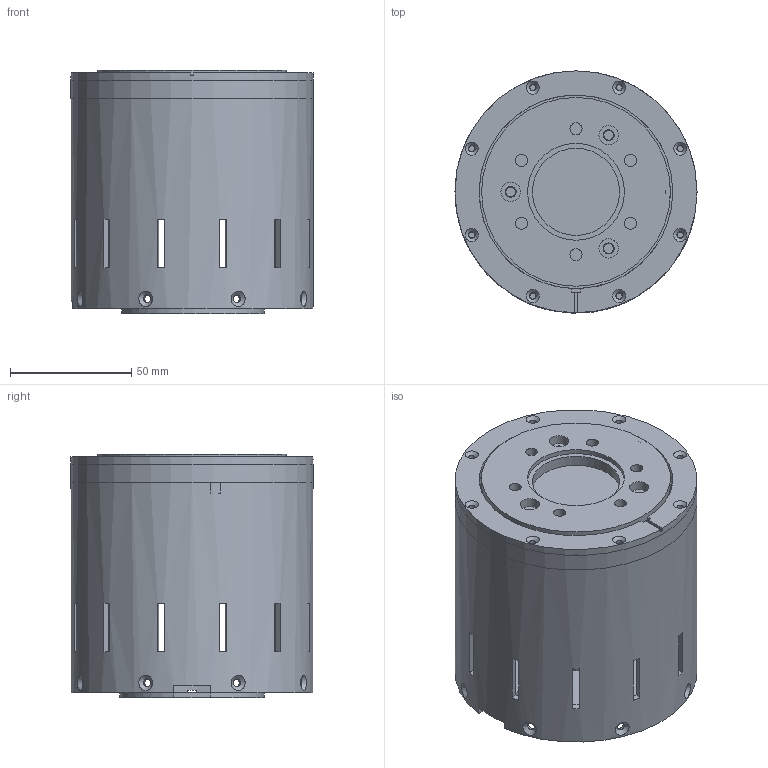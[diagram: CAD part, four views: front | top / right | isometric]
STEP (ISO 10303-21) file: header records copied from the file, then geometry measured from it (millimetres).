
FILE_DESCRIPTION(('Open CASCADE Model'),'2;1');
FILE_NAME('Open CASCADE Shape Model','2026-10-30T22:49:41',('Author'),( 'Open CASCADE'),'Open CASCADE STEP processor 7.9','Open CASCADE 7.9' ,'Unknown');
FILE_SCHEMA(('AUTOMOTIVE_DESIGN { 1 0 10303 214 1 1 1 1 }'));
Length unit declared in the file: millimetre
Products named in the file (18): VAYN_Shoulder_Milling_Qty1; 01 Encoder lid (6082-T6); 06 Magnet holder (6082-T6); 15 Housing (6082-T6); 16 Ring-1 (20MnCr5); 18 Sun-1 (20MnCr5); 21 Carrier-1 rear (20MnCr5); 22 Carrier-1 front and sun-2 (20MnCr5); 24.1 Planet-1 (20MnCr5); 24.2 Planet-1 (20MnCr5); 24.3 Planet-1 (20MnCr5); 32 Carrier-2 rear (20MnCr5); 33 Bearing cartridge and ring-2 (20MnCr5); 36.1 Planet-2 (20MnCr5); 36.2 Planet-2 (20MnCr5); 36.3 Planet-2 (20MnCr5); 42 Carrier-2 front (20MnCr5); 45 Front cover (6082-T6)
Assembly tree (17 placements, depth 2):
  VAYN_Shoulder_Milling_Qty1
    01 Encoder lid (6082-T6)
    06 Magnet holder (6082-T6)
    15 Housing (6082-T6)
    16 Ring-1 (20MnCr5)
    18 Sun-1 (20MnCr5)
    21 Carrier-1 rear (20MnCr5)
    22 Carrier-1 front and sun-2 (20MnCr5)
    24.1 Planet-1 (20MnCr5)
    24.2 Planet-1 (20MnCr5)
    24.3 Planet-1 (20MnCr5)
    32 Carrier-2 rear (20MnCr5)
    33 Bearing cartridge and ring-2 (20MnCr5)
    36.1 Planet-2 (20MnCr5)
    36.2 Planet-2 (20MnCr5)
    36.3 Planet-2 (20MnCr5)
    42 Carrier-2 front (20MnCr5)
    45 Front cover (6082-T6)
Bounding box: 100 x 100 x 100.5 mm (x, y, z)
Volume: 335051.2 mm3; surface area: 187846.4 mm2
Topology: 17 solids, 17 shells, 2387 faces, 6801 edges, 4520 vertices
Faces by surface type: cylinder 926, extrusion 774, plane 656, cone 31
Full cylindrical faces by diameter (mm): 2.2 x4, 2.5 x8, 2.7 x8, 2.8 x1, 3 x17, 3.2 x19, 3.4 x8, 3.5 x1, 4 x5, 4.5 x3, 5 x6, 5.6 x4, 5.8 x8, 6 x1, 8 x15, 10 x4, 12 x7, 14 x1, 15 x3, 18 x3, 19 x1, 23 x1, 36 x1, 40 x2, 41 x1, 42 x1, 59 x1, 60 x2, 65 x2, 78 x1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
Entity records: 233525 total; most frequent: CARTESIAN_POINT 103726, DIRECTION 21751, ORIENTED_EDGE 13602, PCURVE 13602, DEFINITIONAL_REPRESENTATION 13602, VECTOR 13316, LINE 12542, EDGE_CURVE 6801
